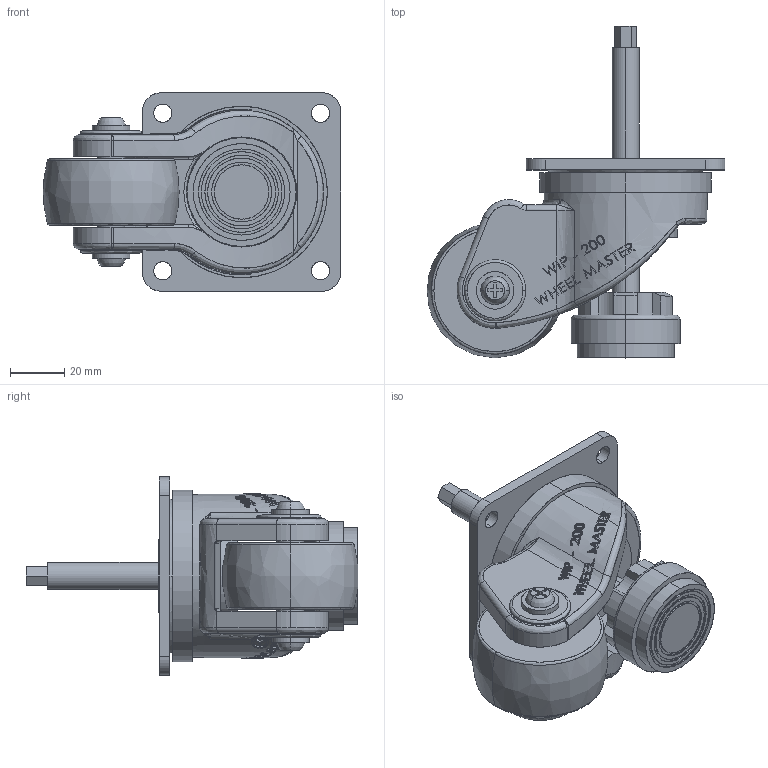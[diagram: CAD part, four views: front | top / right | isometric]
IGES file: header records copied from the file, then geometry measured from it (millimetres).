
Start section: SolidWorks IGES file using analytic representation for surfaces
Bounding box: 109.5 x 122.07 x 73 mm (x, y, z)
Surface area: 65531.7 mm2 (no closed solid volume)
Topology: 0 solids, 0 shells, 718 faces, 10862 edges, 10858 vertices
Faces by surface type: bspline 513, revolution 205
